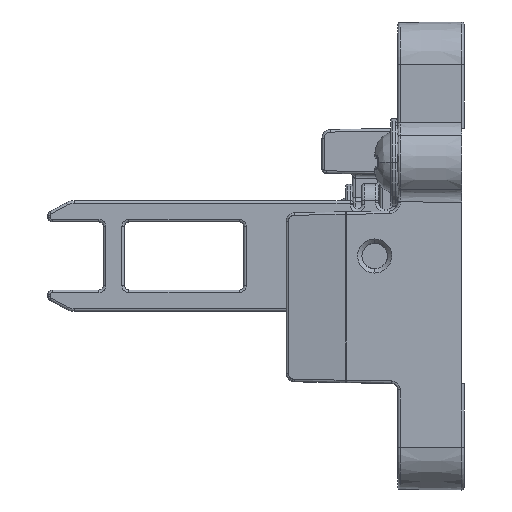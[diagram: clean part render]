
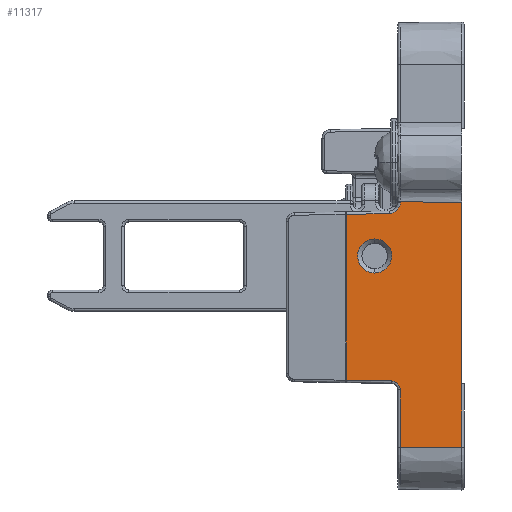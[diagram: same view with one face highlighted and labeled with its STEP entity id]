
A CAD part, left-side view. The second image highlights one B-rep face of the part: STEP entity #11317.
In plain terms, the highlighted planar face has unit normal (-1, 0.009, 0).
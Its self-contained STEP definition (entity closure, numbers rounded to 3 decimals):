
#1248=CARTESIAN_POINT('',(-11.158,10.504,-2.));
#1249=CARTESIAN_POINT('',(-11.157,10.665,
-2.));
#1250=CARTESIAN_POINT('',(-11.154,10.987,
-1.961));
#1251=CARTESIAN_POINT('',(-11.15,11.444,
-1.788));
#1252=CARTESIAN_POINT('',(-11.147,11.844,
-1.511));
#1253=CARTESIAN_POINT('',(-11.144,12.168,
-1.145));
#1254=CARTESIAN_POINT('',(-11.142,12.394,
-0.713));
#1255=CARTESIAN_POINT('',(-11.141,12.51,
-0.24));
#1256=CARTESIAN_POINT('',(-11.141,12.509,
0.248));
#1257=CARTESIAN_POINT('',(-11.142,12.391,
0.721));
#1258=CARTESIAN_POINT('',(-11.144,12.163,1.153));
#1259=CARTESIAN_POINT('',(-11.147,11.839,1.516));
#1260=CARTESIAN_POINT('',(-11.15,11.436,1.793));
#1261=CARTESIAN_POINT('',(-11.154,10.975,1.964));
#1262=CARTESIAN_POINT('',(-11.157,10.662,2.));
#1263=CARTESIAN_POINT('',(-11.158,10.504,2.));
#1265=CARTESIAN_POINT('',(-11.158,10.504,2.));
#1266=CARTESIAN_POINT('',(-11.16,10.344,2.));
#1267=CARTESIAN_POINT('',(-11.163,10.022,1.961));
#1268=CARTESIAN_POINT('',(-11.167,9.565,1.788));
#1269=CARTESIAN_POINT('',(-11.17,9.164,1.511));
#1270=CARTESIAN_POINT('',(-11.173,8.841,1.145));
#1271=CARTESIAN_POINT('',(-11.175,8.615,
0.713));
#1272=CARTESIAN_POINT('',(-11.176,8.499,
0.24));
#1273=CARTESIAN_POINT('',(-11.176,8.5,
-0.248));
#1274=CARTESIAN_POINT('',(-11.175,8.618,
-0.721));
#1275=CARTESIAN_POINT('',(-11.173,8.846,
-1.153));
#1276=CARTESIAN_POINT('',(-11.17,9.17,
-1.516));
#1277=CARTESIAN_POINT('',(-11.166,9.573,
-1.793));
#1278=CARTESIAN_POINT('',(-11.162,10.033,
-1.964));
#1279=CARTESIAN_POINT('',(-11.16,10.347,
-2.));
#1280=CARTESIAN_POINT('',(-11.158,10.504,-2.));
#1302=DIRECTION('',(0.,0.,-1.));
#1303=VECTOR('',#1302,7.5);
#1304=CARTESIAN_POINT('',(-11.247,0.301,-15.));
#1305=LINE('',#1304,#1303);
#1306=DIRECTION('',(-0.009,-1.,0.));
#1307=VECTOR('',#1306,7.2);
#1308=CARTESIAN_POINT('',(-11.185,7.503,-22.5));
#1309=LINE('',#1308,#1307);
#1310=DIRECTION('',(0.,0.,-1.));
#1311=VECTOR('',#1310,6.763);
#1312=CARTESIAN_POINT('',(-11.185,7.503,
-15.737));
#1313=LINE('',#1312,#1311);
#1314=CARTESIAN_POINT('',(-11.176,8.534,
-14.687));
#1315=CARTESIAN_POINT('',(-11.176,8.442,
-14.689));
#1316=CARTESIAN_POINT('',(-11.178,8.265,
-14.716));
#1317=CARTESIAN_POINT('',(-11.18,8.021,
-14.819));
#1318=CARTESIAN_POINT('',(-11.182,7.81,
-14.979));
#1319=CARTESIAN_POINT('',(-11.183,7.644,
-15.186));
#1320=CARTESIAN_POINT('',(-11.184,7.529,
-15.451));
#1321=CARTESIAN_POINT('',(-11.185,7.503,
-15.638));
#1322=CARTESIAN_POINT('',(-11.185,7.503,
-15.737));
#1324=DIRECTION('',(-0.009,-1.,-0.017));
#1325=VECTOR('',#1324,5.296);
#1326=CARTESIAN_POINT('',(-11.129,13.829,
-14.595));
#1327=LINE('',#1326,#1325);
#1328=DIRECTION('',(0.,0.,-1.));
#1329=VECTOR('',#1328,19.49);
#1330=CARTESIAN_POINT('',(-11.129,13.829,4.895));
#1331=LINE('',#1330,#1329);
#1332=DIRECTION('',(0.009,1.,-0.017));
#1333=VECTOR('',#1332,5.05);
#1334=CARTESIAN_POINT('',(-11.173,8.78,4.983));
#1335=LINE('',#1334,#1333);
#1336=CARTESIAN_POINT('',(-11.185,7.503,6.283));
#1337=CARTESIAN_POINT('',(-11.185,7.503,6.168));
#1338=CARTESIAN_POINT('',(-11.184,7.533,5.947));
#1339=CARTESIAN_POINT('',(-11.183,7.655,5.643));
#1340=CARTESIAN_POINT('',(-11.181,7.85,5.379));
#1341=CARTESIAN_POINT('',(-11.179,8.104,5.168));
#1342=CARTESIAN_POINT('',(-11.176,8.429,5.021));
#1343=CARTESIAN_POINT('',(-11.174,8.659,4.985));
#1344=CARTESIAN_POINT('',(-11.173,8.78,4.983));
#1346=DIRECTION('',(0.,0.,-1.));
#1347=VECTOR('',#1346,0.074);
#1348=CARTESIAN_POINT('',(-11.185,7.503,6.356));
#1349=LINE('',#1348,#1347);
#1350=CARTESIAN_POINT('',(-11.185,7.503,6.356));
#1351=CARTESIAN_POINT('',(-11.191,6.767,6.353));
#1352=CARTESIAN_POINT('',(-11.204,5.254,6.347));
#1353=CARTESIAN_POINT('',(-11.225,2.9,6.338));
#1354=CARTESIAN_POINT('',(-11.24,1.186,6.331));
#1355=CARTESIAN_POINT('',(-11.247,0.3,6.328));
#1357=DIRECTION('',(0.,0.,1.));
#1358=VECTOR('',#1357,21.328);
#1359=CARTESIAN_POINT('',(-11.247,0.301,-15.));
#1360=LINE('',#1359,#1358);
#2828=CARTESIAN_POINT('',(-11.185,7.503,6.356));
#2836=CARTESIAN_POINT('',(-11.247,0.3,6.328));
#2956=CARTESIAN_POINT('',(-11.247,0.301,-15.));
#8752=VERTEX_POINT('',#2836);
#8753=VERTEX_POINT('',#1248);
#8754=VERTEX_POINT('',#1263);
#8829=VERTEX_POINT('',#2828);
#8830=CARTESIAN_POINT('',(-11.185,7.503,6.283));
#8831=VERTEX_POINT('',#8830);
#8836=VERTEX_POINT('',#1344);
#8838=CARTESIAN_POINT('',(-11.129,13.829,4.895));
#8839=VERTEX_POINT('',#8838);
#8842=CARTESIAN_POINT('',(-11.129,13.829,
-14.595));
#8843=CARTESIAN_POINT('',(-11.176,8.534,
-14.687));
#8844=VERTEX_POINT('',#8842);
#8845=VERTEX_POINT('',#8843);
#8850=VERTEX_POINT('',#1322);
#8852=CARTESIAN_POINT('',(-11.185,7.503,-22.5));
#8853=VERTEX_POINT('',#8852);
#9025=CARTESIAN_POINT('',(-11.247,0.303,-22.5));
#9026=VERTEX_POINT('',#9025);
#9027=VERTEX_POINT('',#2956);
#11283=CARTESIAN_POINT('',(-11.25,0.,-29.284));
#11284=DIRECTION('',(-1.,0.009,0.));
#11285=DIRECTION('',(0.,0.,-1.));
#11286=AXIS2_PLACEMENT_3D('',#11283,#11284,#11285);
#11287=PLANE('',#11286);
#11289=ORIENTED_EDGE('',*,*,#11288,.T.);
#11291=ORIENTED_EDGE('',*,*,#11290,.F.);
#11292=ORIENTED_EDGE('',*,*,#11257,.F.);
#11294=ORIENTED_EDGE('',*,*,#11293,.F.);
#11296=ORIENTED_EDGE('',*,*,#11295,.F.);
#11298=ORIENTED_EDGE('',*,*,#11297,.F.);
#11300=ORIENTED_EDGE('',*,*,#11299,.F.);
#11302=ORIENTED_EDGE('',*,*,#11301,.F.);
#11304=ORIENTED_EDGE('',*,*,#11303,.F.);
#11306=ORIENTED_EDGE('',*,*,#11305,.T.);
#11308=ORIENTED_EDGE('',*,*,#11307,.F.);
#11309=EDGE_LOOP('',(#11289,#11291,#11292,#11294,#11296,#11298,#11300,#11302,
#11304,#11306,#11308));
#11310=FACE_OUTER_BOUND('',#11309,.F.);
#11312=ORIENTED_EDGE('',*,*,#11311,.F.);
#11314=ORIENTED_EDGE('',*,*,#11313,.F.);
#11315=EDGE_LOOP('',(#11312,#11314));
#11316=FACE_BOUND('',#11315,.F.);
#11317=ADVANCED_FACE('',(#11310,#11316),#11287,.T.);
#1264=B_SPLINE_CURVE_WITH_KNOTS('',3,(#1248,#1249,#1250,#1251,#1252,#1253,#1254,
#1255,#1256,#1257,#1258,#1259,#1260,#1261,#1262,#1263),.UNSPECIFIED.,.F.,.F.,(4,
1,1,1,1,1,1,1,1,1,1,1,1,4),(0.,0.077,0.154,
0.231,0.308,0.385,0.462,
0.538,0.615,0.692,0.769,
0.846,0.923,1.),.UNSPECIFIED.);
#1281=B_SPLINE_CURVE_WITH_KNOTS('',3,(#1265,#1266,#1267,#1268,#1269,#1270,#1271,
#1272,#1273,#1274,#1275,#1276,#1277,#1278,#1279,#1280),.UNSPECIFIED.,.F.,.F.,(4,
1,1,1,1,1,1,1,1,1,1,1,1,4),(0.,0.077,0.154,
0.231,0.308,0.385,0.462,
0.538,0.615,0.692,0.769,
0.846,0.923,1.),.UNSPECIFIED.);
#1323=B_SPLINE_CURVE_WITH_KNOTS('',3,(#1314,#1315,#1316,#1317,#1318,#1319,#1320,
#1321,#1322),.UNSPECIFIED.,.F.,.F.,(4,1,1,1,1,1,4),(0.,0.167,
0.333,0.5,0.667,0.833,1.),
.UNSPECIFIED.);
#1345=B_SPLINE_CURVE_WITH_KNOTS('',3,(#1336,#1337,#1338,#1339,#1340,#1341,#1342,
#1343,#1344),.UNSPECIFIED.,.F.,.F.,(4,1,1,1,1,1,4),(0.,0.167,
0.333,0.5,0.667,0.833,1.),
.UNSPECIFIED.);
#1356=B_SPLINE_CURVE_WITH_KNOTS('',3,(#1350,#1351,#1352,#1353,#1354,#1355),
.UNSPECIFIED.,.F.,.F.,(4,1,1,4),(0.,0.333,0.667,1.),
.UNSPECIFIED.);
#11257=EDGE_CURVE('',#8850,#8853,#1313,.T.);
#11288=EDGE_CURVE('',#9027,#9026,#1305,.T.);
#11290=EDGE_CURVE('',#8853,#9026,#1309,.T.);
#11293=EDGE_CURVE('',#8845,#8850,#1323,.T.);
#11295=EDGE_CURVE('',#8844,#8845,#1327,.T.);
#11297=EDGE_CURVE('',#8839,#8844,#1331,.T.);
#11299=EDGE_CURVE('',#8836,#8839,#1335,.T.);
#11301=EDGE_CURVE('',#8831,#8836,#1345,.T.);
#11303=EDGE_CURVE('',#8829,#8831,#1349,.T.);
#11305=EDGE_CURVE('',#8829,#8752,#1356,.T.);
#11307=EDGE_CURVE('',#9027,#8752,#1360,.T.);
#11311=EDGE_CURVE('',#8753,#8754,#1264,.T.);
#11313=EDGE_CURVE('',#8754,#8753,#1281,.T.);
